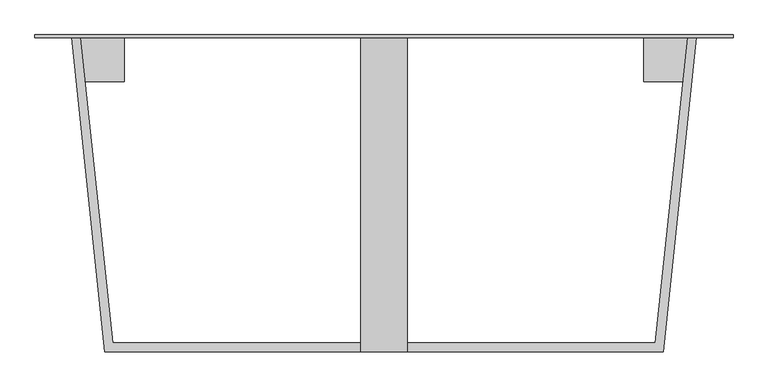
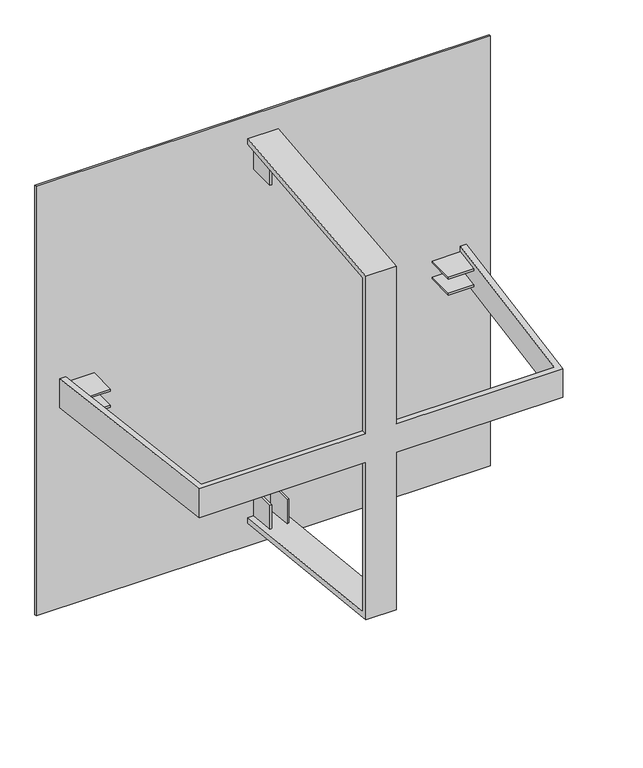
"""IFC4 building model written with IfcOpenShell, lengths in millimetres: proxy geometry, IMPRESS^TABLE 8_72sq X BASE-48 BASE SOLID."""

from ifc_helpers import new_model, si_unit, origin, place, context, project, spatial, faceted_brep, source, transform, mapped, element, save


def generic_models_61872e4f(model_context):
    return source(origin(), model_context, "Body", "Brep", [
        faceted_brep([(812.8, 692.15, 152.4), (812.8, 685.8, 152.4), (812.8, 685.8, -1371.6), (812.8, 692.15, -1371.6), (-711.2, 685.8, -1371.6), (-711.2, 692.15, -1371.6), (-711.2, 692.15, 152.4), (-711.2, 685.8, 152.4), (19.05, 685.8, -1272.1255518), (19.05, 590.55, -1262.1143734), (19.05, 590.55, -1176.8755518), (19.05, 685.8, -1176.8755518), (25.4, 590.55, -1262.1143734), (25.4, 685.8, -1272.1255518), (25.4, 685.8, -1176.8755518), (25.4, 590.55, -1176.8755518), (76.2, 685.8, -1272.1255518), (76.2, 590.55, -1262.1143734), (76.2, 590.55, -1176.8755518), (76.2, 685.8, -1176.8755518), (82.55, 590.55, -1262.1143734), (82.55, 685.8, -1272.1255518), (82.55, 685.8, -1176.8755518), (82.55, 590.55, -1176.8755518), (82.55, 685.8, 52.9255518), (82.55, 590.55, 42.9143734), (82.55, 590.55, -42.3244482), (82.55, 685.8, -42.3244482), (76.2, 590.55, 42.9143734), (76.2, 685.8, 52.9255518), (76.2, 685.8, -42.3244482), (76.2, 590.55, -42.3244482), (19.05, 590.55, 42.9143734), (19.05, 685.8, 52.9255518), (19.05, 685.8, -42.3244482), (19.05, 590.55, -42.3244482), (25.4, 685.8, 52.9255518), (25.4, 590.55, 42.9143734), (25.4, 590.55, -42.3244482), (25.4, 685.8, -42.3244482), (-611.7255518, 685.8, -577.85), (-601.7143734, 590.55, -577.85), (-516.4755518, 590.55, -577.85), (-516.4755518, 685.8, -577.85), (-601.7143734, 590.55, -584.2), (-611.7255518, 685.8, -584.2), (-516.4755518, 685.8, -584.2), (-516.4755518, 590.55, -584.2), (-611.7255518, 685.8, -635.0), (-601.7143734, 590.55, -635.0), (-516.4755518, 590.55, -635.0), (-516.4755518, 685.8, -635.0), (-601.7143734, 590.55, -641.35), (-611.7255518, 685.8, -641.35), (-516.4755518, 685.8, -641.35), (-516.4755518, 590.55, -641.35), (713.3255518, 685.8, -641.35), (703.3143734, 590.55, -641.35), (618.0755518, 590.55, -641.35), (618.0755518, 685.8, -641.35), (703.3143734, 590.55, -635.0), (713.3255518, 685.8, -635.0), (618.0755518, 685.8, -635.0), (618.0755518, 590.55, -635.0), (713.3255518, 685.8, -584.2), (703.3143734, 590.55, -584.2), (618.0755518, 590.55, -584.2), (618.0755518, 685.8, -584.2), (703.3143734, 590.55, -577.85), (713.3255518, 685.8, -577.85), (618.0755518, 685.8, -577.85), (618.0755518, 590.55, -577.85), (0.0, 685.8, -1272.1255518), (0.0, 19.05, -1202.047303), (101.6, 19.05, -1202.047303), (101.6, 685.8, -1272.1255518), (713.3255518, 685.8, -660.4), (643.247303, 19.05, -660.4), (643.247303, 19.05, -558.8), (713.3255518, 685.8, -558.8), (101.6, 685.8, 52.9255518), (101.6, 19.05, -17.152697), (0.0, 19.05, -17.152697), (0.0, 685.8, 52.9255518), (101.6, 685.8, -1291.2804845), (0.0, 685.8, -1291.2804845), (0.0, 685.8, 72.0804845), (101.6, 685.8, 72.0804845), (-611.7255518, 685.8, -660.4), (-630.8804845, 685.8, -660.4), (-630.8804845, 685.8, -558.8), (-611.7255518, 685.8, -558.8), (732.4804845, 685.8, -558.8), (732.4804845, 685.8, -660.4), (0.0, 19.05, -558.8), (0.0, 0.0, -558.8), (0.0, 0.0, 0.0), (-558.8, 0.0, -660.4), (-558.8, 0.0, -558.8), (101.6, 19.05, -558.8), (101.6, 0.0, -558.8), (660.4, 0.0, -558.8), (-541.647303, 19.05, -660.4), (0.0, 19.05, -660.4), (0.0, 0.0, -660.4), (0.0, 0.0, -1219.2), (101.6, 0.0, -1219.2), (-541.647303, 19.05, -558.8), (660.4, 0.0, -660.4), (101.6, 0.0, -660.4), (101.6, 19.05, -660.4), (101.6, 0.0, 0.0)], [[[0, 1, 2, 3]], [[3, 2, 4, 5]], [[0, 3, 5, 6]], [[5, 4, 7, 6]], [[6, 7, 1, 0]], [[8, 9, 10, 11]], [[12, 13, 14, 15]], [[16, 17, 18, 19]], [[20, 21, 22, 23]], [[24, 25, 26, 27]], [[28, 29, 30, 31]], [[32, 33, 34, 35]], [[36, 37, 38, 39]], [[40, 41, 42, 43]], [[44, 45, 46, 47]], [[48, 49, 50, 51]], [[52, 53, 54, 55]], [[56, 57, 58, 59]], [[60, 61, 62, 63]], [[64, 65, 66, 67]], [[68, 69, 70, 71]], [[14, 11, 10, 15]], [[9, 12, 15, 10]], [[22, 19, 18, 23]], [[17, 20, 23, 18]], [[62, 59, 58, 63]], [[57, 60, 63, 58]], [[70, 67, 66, 71]], [[65, 68, 71, 66]], [[30, 27, 26, 31]], [[25, 28, 31, 26]], [[34, 39, 38, 35]], [[37, 32, 35, 38]], [[13, 12, 9, 8, 72, 73, 74, 75, 21, 20, 17, 16]], [[61, 60, 57, 56, 76, 77, 78, 79, 69, 68, 65, 64]], [[29, 28, 25, 24, 80, 81, 82, 83, 33, 32, 37, 36]], [[41, 44, 47, 42]], [[46, 43, 42, 47]], [[49, 52, 55, 50]], [[54, 51, 50, 55]], [[4, 2, 1, 7], [14, 13, 16, 19, 22, 21, 75, 84, 85, 72, 8, 11], [30, 29, 36, 39, 34, 33, 83, 86, 87, 80, 24, 27], [40, 43, 46, 45, 48, 51, 54, 53, 88, 89, 90, 91], [62, 61, 64, 67, 70, 69, 79, 92, 93, 76, 56, 59]], [[86, 83, 82, 94, 95, 96]], [[90, 89, 97, 98]], [[92, 79, 78, 99, 100, 101]], [[89, 88, 102, 103, 104, 97]], [[72, 85, 105, 104, 103, 73]], [[85, 84, 106, 105]], [[91, 90, 98, 95, 94, 107]], [[41, 40, 91, 107, 102, 88, 53, 52, 49, 48, 45, 44]], [[93, 92, 101, 108]], [[76, 93, 108, 109, 110, 77]], [[80, 87, 111, 100, 99, 81]], [[84, 75, 74, 110, 109, 106]], [[110, 74, 73, 103, 102, 107, 94, 82, 81, 99, 78, 77]], [[104, 105, 106, 109, 108, 101, 100, 111, 96, 95, 98, 97]], [[87, 86, 96, 111]]]),
    ])


if __name__ == "__main__":
    model = new_model("IFC4")
    model_context = context("Model", 3, world=origin())
    ifc_project = project(units=[si_unit("LENGTHUNIT", "METRE", prefix="MILLI")], contexts=[model_context])
    site = spatial("IfcSite", under=ifc_project)
    building = spatial("IfcBuilding", under=site)
    placement = place(None, origin())
    generic_models_shape = generic_models_61872e4f(model_context)
    element("IfcBuildingElementProxy", 1, Name="IMPRESS^TABLE 8_72sq X BASE-48 BASE SOLID", ObjectType="IMPRESS^TABLE 8_72sq X BASE-48 BASE SOLID", at=placement, inside=building, context=model_context, shape_type="MappedRepresentation", body=[
        mapped(generic_models_shape, transform((0.0, 0.0, 0.0), x_axis=(1.0, 0.0, 0.0), y_axis=(0.0, 1.0, 0.0), z_axis=(0.0, 0.0, 1.0))),
    ])
    save(model, "model.ifc")
